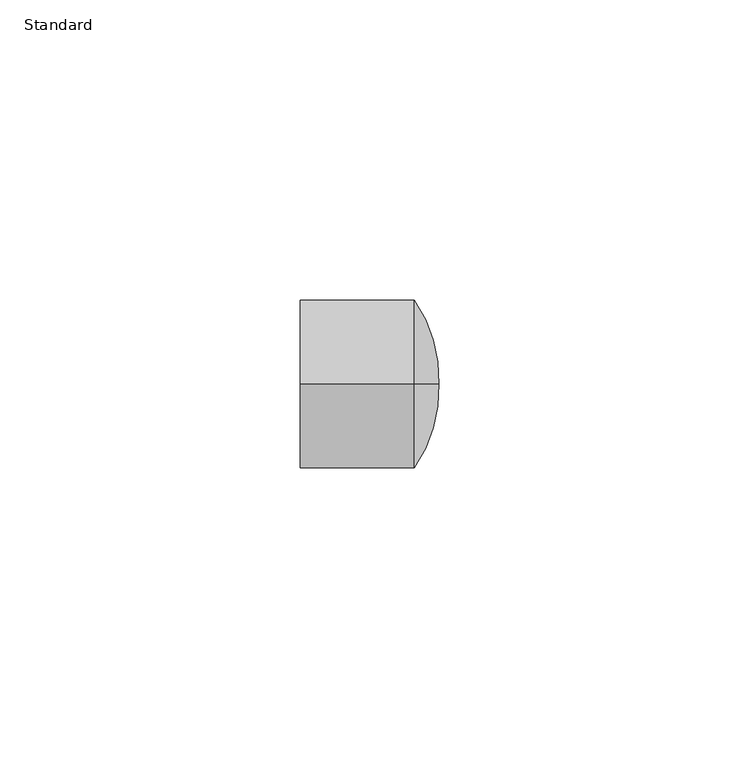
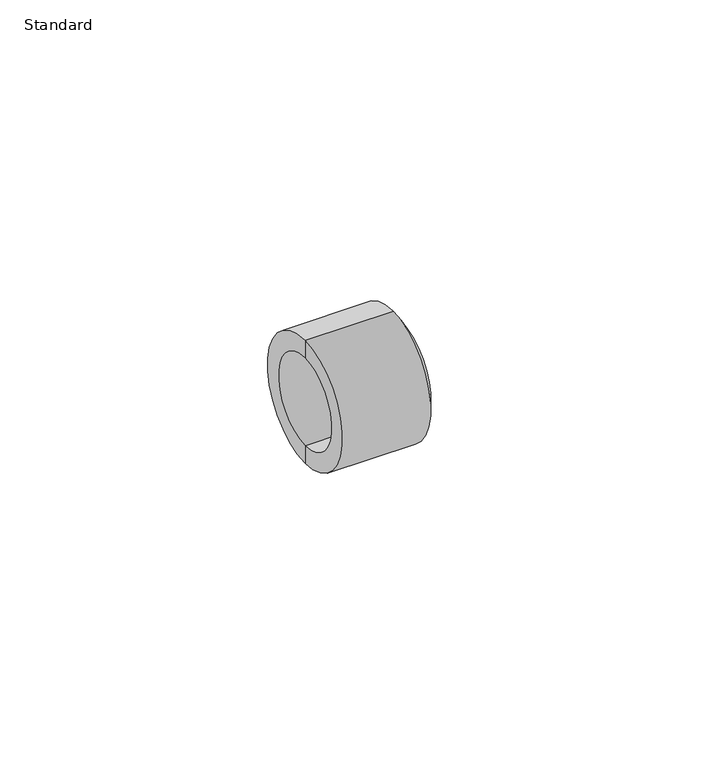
"""IFC4 building model written with IfcOpenShell, lengths in millimetres: pipe fitting geometry, Durapipe_PipeFitting_PVC_Cap : Standard."""

from ifc_helpers import new_model, si_unit, point, frame, origin, place, context, project, spatial, polyline, circle_curve, ellipse_curve, trimmed, source, transform, mapped, element, save
from ifc_brep_helpers import plane_surface, cylinder_surface, revolved_surface, advanced_brep


def standard_31ae7f76(model_context):
    return source(origin(), model_context, "Body", "AdvancedBrep", [
        advanced_brep(
        [(0.0, 0.0, 0.0), (0.0, 0.0, 10.0), (0.0, 0.0, -10.0), (3.0, 0.0, -14.0), (3.0, 0.0, 14.0), (7.0, 0.0, 0.0), (-16.0, 0.0, -14.0), (-16.0, 0.0, 14.0), (-16.0, 0.0, -10.0), (-16.0, 0.0, 10.0)],
        [
            (0, 1),
            (1, 2, circle_curve(frame((0.0, 0.0, 0.0), z_axis=(-1.0, 0.0, 0.0), x_axis=(0.0, 0.0, 1.0)), 10.0)),
            (2, 0),
            (2, 1, circle_curve(frame((0.0, 0.0, 0.0), z_axis=(-1.0, 0.0, 0.0), x_axis=(0.0, 0.0, 1.0)), 10.0)),
            (3, 4, circle_curve(frame((3.0, 0.0, 0.0), z_axis=(1.0, 0.0, 0.0), x_axis=(0.0, 0.0, 1.0)), 14.0)),
            (4, 5, circle_curve(frame((-15.564506, 0.0, 1.1244268), z_axis=(0.0, 1.0, 0.0), x_axis=(1.0, 0.0, 0.0)), 22.5925047)),
            (5, 3, circle_curve(frame((-15.564506, 0.0, -1.1244268), z_axis=(0.0, 1.0, 0.0), x_axis=(1.0, 0.0, 0.0)), 22.5925047)),
            (4, 3, circle_curve(frame((3.0, 0.0, 0.0), z_axis=(1.0, 0.0, 0.0), x_axis=(0.0, 0.0, 1.0)), 14.0)),
            (6, 7, circle_curve(frame((-16.0, 0.0, 0.0), z_axis=(1.0, 0.0, 0.0), x_axis=(0.0, 0.0, 1.0)), 14.0)),
            (7, 4),
            (3, 6),
            (7, 6, circle_curve(frame((-16.0, 0.0, 0.0), z_axis=(1.0, 0.0, 0.0), x_axis=(0.0, 0.0, 1.0)), 14.0)),
            (8, 9, circle_curve(frame((-16.0, 0.0, 0.0), z_axis=(1.0, 0.0, 0.0), x_axis=(0.0, 0.0, 1.0)), 10.0)),
            (9, 7),
            (6, 8),
            (9, 8, circle_curve(frame((-16.0, 0.0, 0.0), z_axis=(1.0, 0.0, 0.0), x_axis=(0.0, 0.0, 1.0)), 10.0)),
            (1, 9),
            (8, 2),
        ],
        [
            plane_surface(frame((0.0, 0.0, 0.0), z_axis=(-1.0, 0.0, 0.0), x_axis=(0.0, 0.0, 1.0))),
            revolved_surface(trimmed(ellipse_curve(frame((-15.564506, 0.0, 1.1244268), z_axis=(0.0, -1.0, 0.0), x_axis=(1.0, 0.0, 0.0)), 22.5925047, 22.5925047), [point((7.0, 0.0, 0.0))], [point((3.0, 0.0, 14.0))], True, "CARTESIAN"), (-1515.1299635, 0.0, 0.0), (-1.0, 0.0, 0.0)),
            cylinder_surface(frame((-1515.1299635, 0.0, 0.0), z_axis=(-1.0, 0.0, 0.0), x_axis=(0.0, 0.0, 1.0)), 14.0),
            plane_surface(frame((-16.0, 0.0, 0.0), z_axis=(-1.0, 0.0, 0.0), x_axis=(0.0, 0.0, 1.0))),
            revolved_surface(polyline([(-16.0, 0.0, 10.0), (0.0, 0.0, 10.0)]), (-1515.1299635, 0.0, 0.0), (-1.0, 0.0, 0.0)),
        ],
        [
            (0, [[1, 2, 3]]),
            (0, [[-3, 4, -1]]),
            (1, [[5, 6, 7]]),
            (1, [[8, -7, -6]]),
            (2, [[9, 10, -5, 11]]),
            (2, [[12, -11, -8, -10]]),
            (3, [[13, 14, -9, 15]]),
            (3, [[16, -15, -12, -14]]),
            (4, [[-2, 17, -13, 18]]),
            (4, [[-4, -18, -16, -17]]),
        ],
    ),
    ])


if __name__ == "__main__":
    model = new_model("IFC4")
    model_context = context("Model", 3, world=origin())
    ifc_project = project(units=[si_unit("LENGTHUNIT", "METRE", prefix="MILLI")], contexts=[model_context])
    site = spatial("IfcSite", under=ifc_project)
    building = spatial("IfcBuilding", under=site)
    placement = place(None, origin())
    standard_shape = standard_31ae7f76(model_context)
    element("IfcPipeFitting", 1, ObjectType="Durapipe_PipeFitting_PVC_Cap : Standard", at=placement, inside=building, context=model_context, shape_type="MappedRepresentation", body=[
        mapped(standard_shape, transform((0.0, 0.0, 0.0), x_axis=(1.0, 0.0, 0.0), y_axis=(0.0, 1.0, 0.0), z_axis=(0.0, 0.0, 1.0))),
    ])
    save(model, "model.ifc")
